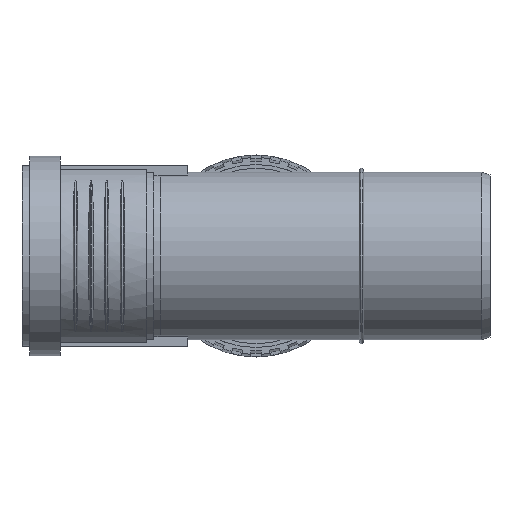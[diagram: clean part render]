
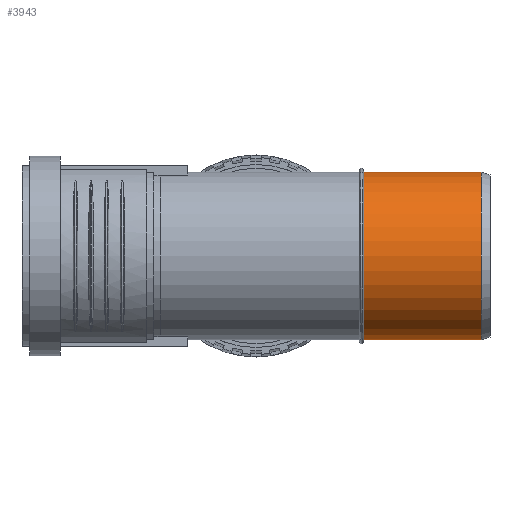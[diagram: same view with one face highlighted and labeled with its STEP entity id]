
A CAD part, left-side view. The second image highlights one B-rep face of the part: STEP entity #3943.
In plain terms, the highlighted cylindrical face has radius 37.6 mm (diameter 75.2 mm), a full revolution.
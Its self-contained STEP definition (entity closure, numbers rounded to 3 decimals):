
#145=FACE_BOUND($,#1174,.T.);
#957=FACE_OUTER_BOUND($,#1173,.T.);
#1173=EDGE_LOOP($,(#2594));
#1174=EDGE_LOOP($,(#2595));
#1481=CIRCLE($,#4177,37.6);
#1482=CIRCLE($,#4179,37.6);
#1620=VERTEX_POINT($,#5758);
#1621=VERTEX_POINT($,#5761);
#2014=EDGE_CURVE($,#1620,#1620,#1481,.T.);
#2015=EDGE_CURVE($,#1621,#1621,#1482,.T.);
#2594=ORIENTED_EDGE($,*,*,#2015,.F.);
#2595=ORIENTED_EDGE($,*,*,#2014,.T.);
#3696=CYLINDRICAL_SURFACE($,#4178,37.6);
#3943=ADVANCED_FACE($,(#957,#145),#3696,.T.);
#4177=AXIS2_PLACEMENT_3D($,#5759,#4561,#4562);
#4178=AXIS2_PLACEMENT_3D($,#5760,#4563,#4564);
#4179=AXIS2_PLACEMENT_3D($,#5762,#4565,#4566);
#4561=DIRECTION('center_axis',(0.,1.,0.));
#4562=DIRECTION('ref_axis',(-1.,0.,0.));
#4563=DIRECTION('center_axis',(0.,1.,0.));
#4564=DIRECTION('ref_axis',(-1.,0.,0.));
#4565=DIRECTION('center_axis',(0.,1.,0.));
#4566=DIRECTION('ref_axis',(-1.,0.,0.));
#5758=CARTESIAN_POINT('',(-37.6,4.,0.));
#5759=CARTESIAN_POINT('Origin',(0.,4.,
0.));
#5760=CARTESIAN_POINT('Origin',(0.,30.35,0.));
#5761=CARTESIAN_POINT('',(-37.6,56.7,0.));
#5762=CARTESIAN_POINT('Origin',(0.,56.7,0.));
